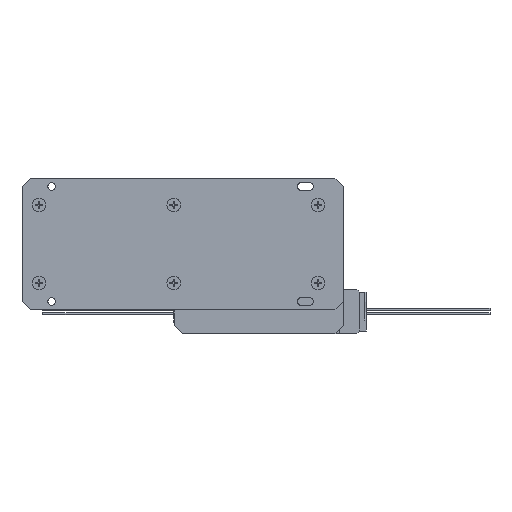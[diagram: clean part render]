
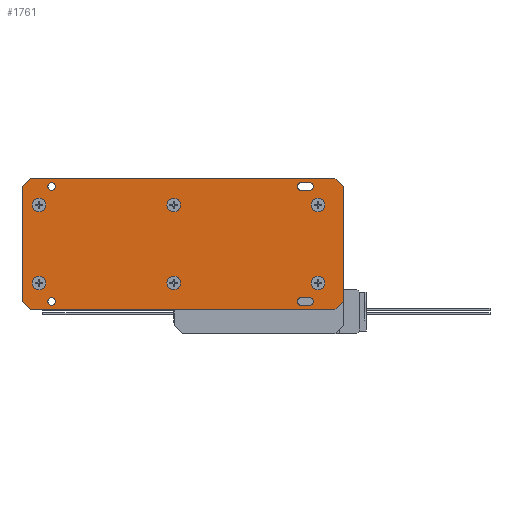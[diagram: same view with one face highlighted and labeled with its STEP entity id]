
A CAD part, front view. The second image highlights one B-rep face of the part: STEP entity #1761.
In plain terms, the highlighted planar face has unit normal (0, -1, 0).
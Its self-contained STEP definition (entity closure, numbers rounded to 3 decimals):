
#1761=ADVANCED_FACE('',(#3657,#3658,#3659,#3660,#3661,#3662,#3663,#3664,#3665,#3666,#3667),#3668,.F.);
#3657=FACE_OUTER_BOUND('',#7308,.T.);
#3658=FACE_BOUND('',#7309,.T.);
#3659=FACE_BOUND('',#7310,.T.);
#3660=FACE_BOUND('',#7311,.T.);
#3661=FACE_BOUND('',#7312,.T.);
#3662=FACE_BOUND('',#7313,.T.);
#3663=FACE_BOUND('',#7314,.T.);
#3664=FACE_BOUND('',#7315,.T.);
#3665=FACE_BOUND('',#7316,.T.);
#3666=FACE_BOUND('',#7317,.T.);
#3667=FACE_BOUND('',#7318,.T.);
#3668=PLANE('',#7319);
#7308=EDGE_LOOP('',(#12376,#12377,#12378,#12379,#12380,#12381,#12382,#12383));
#7309=EDGE_LOOP('',(#12384,#12385,#12386,#12387));
#7310=EDGE_LOOP('',(#12388,#12389,#12390,#12391));
#7311=EDGE_LOOP('',(#12392));
#7312=EDGE_LOOP('',(#12393));
#7313=EDGE_LOOP('',(#12394));
#7314=EDGE_LOOP('',(#12395));
#7315=EDGE_LOOP('',(#12396));
#7316=EDGE_LOOP('',(#12397));
#7317=EDGE_LOOP('',(#12398));
#7318=EDGE_LOOP('',(#12399));
#7319=AXIS2_PLACEMENT_3D('',#12400,#12401,#12402);
#12376=ORIENTED_EDGE('',*,*,#26491,.F.);
#12377=ORIENTED_EDGE('',*,*,#26328,.F.);
#12378=ORIENTED_EDGE('',*,*,#26501,.F.);
#12379=ORIENTED_EDGE('',*,*,#26243,.F.);
#12380=ORIENTED_EDGE('',*,*,#26499,.F.);
#12381=ORIENTED_EDGE('',*,*,#26496,.F.);
#12382=ORIENTED_EDGE('',*,*,#26271,.F.);
#12383=ORIENTED_EDGE('',*,*,#26494,.F.);
#12384=ORIENTED_EDGE('',*,*,#26503,.T.);
#12385=ORIENTED_EDGE('',*,*,#26518,.T.);
#12386=ORIENTED_EDGE('',*,*,#26510,.T.);
#12387=ORIENTED_EDGE('',*,*,#26507,.T.);
#12388=ORIENTED_EDGE('',*,*,#26339,.T.);
#12389=ORIENTED_EDGE('',*,*,#26265,.T.);
#12390=ORIENTED_EDGE('',*,*,#26516,.T.);
#12391=ORIENTED_EDGE('',*,*,#26513,.T.);
#12392=ORIENTED_EDGE('',*,*,#26520,.T.);
#12393=ORIENTED_EDGE('',*,*,#26275,.T.);
#12394=ORIENTED_EDGE('',*,*,#26260,.F.);
#12395=ORIENTED_EDGE('',*,*,#26522,.F.);
#12396=ORIENTED_EDGE('',*,*,#26523,.F.);
#12397=ORIENTED_EDGE('',*,*,#26524,.F.);
#12398=ORIENTED_EDGE('',*,*,#26525,.F.);
#12399=ORIENTED_EDGE('',*,*,#26526,.F.);
#12400=CARTESIAN_POINT('',(0.,0.0,0.0));
#12401=DIRECTION('',(-0.0,1.0,0.0));
#12402=DIRECTION('',(1.0,0.0,0.0));
#26243=EDGE_CURVE('',#30996,#30997,#30998,.T.);
#26260=EDGE_CURVE('',#31030,#31030,#31031,.T.);
#26265=EDGE_CURVE('',#31040,#31041,#31042,.T.);
#26271=EDGE_CURVE('',#31051,#31052,#31053,.T.);
#26275=EDGE_CURVE('',#31059,#31059,#31060,.T.);
#26328=EDGE_CURVE('',#31160,#31161,#31162,.T.);
#26339=EDGE_CURVE('',#31181,#31040,#31182,.T.);
#26491=EDGE_CURVE('',#31161,#31421,#31422,.T.);
#26494=EDGE_CURVE('',#31421,#31051,#31426,.T.);
#26496=EDGE_CURVE('',#31052,#31428,#31429,.T.);
#26499=EDGE_CURVE('',#31428,#30996,#31433,.T.);
#26501=EDGE_CURVE('',#30997,#31160,#31435,.T.);
#26503=EDGE_CURVE('',#31437,#31438,#31439,.T.);
#26507=EDGE_CURVE('',#31445,#31437,#31446,.T.);
#26510=EDGE_CURVE('',#31450,#31445,#31451,.T.);
#26513=EDGE_CURVE('',#31455,#31181,#31456,.T.);
#26516=EDGE_CURVE('',#31041,#31455,#31460,.T.);
#26518=EDGE_CURVE('',#31438,#31450,#31462,.T.);
#26520=EDGE_CURVE('',#31464,#31464,#31465,.T.);
#26522=EDGE_CURVE('',#31468,#31468,#31469,.T.);
#26523=EDGE_CURVE('',#31470,#31470,#31471,.T.);
#26524=EDGE_CURVE('',#31472,#31472,#31473,.T.);
#26525=EDGE_CURVE('',#31474,#31474,#31475,.T.);
#26526=EDGE_CURVE('',#31476,#31476,#31477,.T.);
#30996=VERTEX_POINT('',#38892);
#30997=VERTEX_POINT('',#38893);
#30998=LINE('',#38894,#38895);
#31030=VERTEX_POINT('',#38938);
#31031=CIRCLE('',#38939,4.0);
#31040=VERTEX_POINT('',#38952);
#31041=VERTEX_POINT('',#38953);
#31042=CIRCLE('',#38954,2.25);
#31051=VERTEX_POINT('',#38967);
#31052=VERTEX_POINT('',#38968);
#31053=LINE('',#38969,#38970);
#31059=VERTEX_POINT('',#38979);
#31060=CIRCLE('',#38980,2.25);
#31160=VERTEX_POINT('',#39124);
#31161=VERTEX_POINT('',#39125);
#31162=LINE('',#39126,#39127);
#31181=VERTEX_POINT('',#39154);
#31182=LINE('',#39155,#39156);
#31421=VERTEX_POINT('',#39522);
#31422=LINE('',#39523,#39524);
#31426=LINE('',#39530,#39531);
#31428=VERTEX_POINT('',#39534);
#31429=LINE('',#39535,#39536);
#31433=LINE('',#39542,#39543);
#31435=LINE('',#39546,#39547);
#31437=VERTEX_POINT('',#39550);
#31438=VERTEX_POINT('',#39551);
#31439=LINE('',#39552,#39553);
#31445=VERTEX_POINT('',#39562);
#31446=CIRCLE('',#39563,2.25);
#31450=VERTEX_POINT('',#39568);
#31451=LINE('',#39569,#39570);
#31455=VERTEX_POINT('',#39576);
#31456=CIRCLE('',#39577,2.25);
#31460=LINE('',#39582,#39583);
#31462=CIRCLE('',#39586,2.25);
#31464=VERTEX_POINT('',#39588);
#31465=CIRCLE('',#39589,2.25);
#31468=VERTEX_POINT('',#39592);
#31469=CIRCLE('',#39593,4.0);
#31470=VERTEX_POINT('',#39594);
#31471=CIRCLE('',#39595,4.0);
#31472=VERTEX_POINT('',#39596);
#31473=CIRCLE('',#39597,4.0);
#31474=VERTEX_POINT('',#39598);
#31475=CIRCLE('',#39599,4.0);
#31476=VERTEX_POINT('',#39600);
#31477=CIRCLE('',#39601,4.0);
#38892=CARTESIAN_POINT('',(157.8,0.0,34.0));
#38893=CARTESIAN_POINT('',(157.8,0.0,-34.0));
#38894=CARTESIAN_POINT('',(157.8,0.0,34.0));
#38895=VECTOR('',#51521,1.0);
#38938=CARTESIAN_POINT('',(-22.2,0.0,19.0));
#38939=AXIS2_PLACEMENT_3D('',#51548,#51549,#51550);
#38952=CARTESIAN_POINT('',(132.8,0.0,31.75));
#38953=CARTESIAN_POINT('',(132.8,0.0,36.25));
#38954=AXIS2_PLACEMENT_3D('',#51555,#51556,#51557);
#38967=CARTESIAN_POINT('',(-32.2,0.0,34.0));
#38968=CARTESIAN_POINT('',(-27.2,0.0,39.0));
#38969=CARTESIAN_POINT('',(-32.2,0.0,34.0));
#38970=VECTOR('',#51565,1.0);
#38979=CARTESIAN_POINT('',(-12.45,0.0,34.0));
#38980=AXIS2_PLACEMENT_3D('',#51569,#51570,#51571);
#39124=CARTESIAN_POINT('',(152.8,0.0,-39.0));
#39125=CARTESIAN_POINT('',(-27.2,0.0,-39.0));
#39126=CARTESIAN_POINT('',(152.8,0.0,-39.0));
#39127=VECTOR('',#51640,1.0);
#39154=CARTESIAN_POINT('',(137.8,0.0,31.75));
#39155=CARTESIAN_POINT('',(137.8,0.0,31.75));
#39156=VECTOR('',#51655,1.0);
#39522=CARTESIAN_POINT('',(-32.2,0.0,-34.0));
#39523=CARTESIAN_POINT('',(-27.2,0.0,-39.0));
#39524=VECTOR('',#51855,1.0);
#39530=CARTESIAN_POINT('',(-32.2,0.0,-34.0));
#39531=VECTOR('',#51858,1.0);
#39534=CARTESIAN_POINT('',(152.8,0.0,39.0));
#39535=CARTESIAN_POINT('',(-27.2,0.0,39.0));
#39536=VECTOR('',#51860,1.0);
#39542=CARTESIAN_POINT('',(152.8,0.0,39.0));
#39543=VECTOR('',#51863,1.0);
#39546=CARTESIAN_POINT('',(157.8,0.0,-34.0));
#39547=VECTOR('',#51865,1.0);
#39550=CARTESIAN_POINT('',(137.8,0.0,-36.25));
#39551=CARTESIAN_POINT('',(132.8,0.0,-36.25));
#39552=CARTESIAN_POINT('',(137.8,0.0,-36.25));
#39553=VECTOR('',#51867,1.0);
#39562=CARTESIAN_POINT('',(137.8,0.0,-31.75));
#39563=AXIS2_PLACEMENT_3D('',#51871,#51872,#51873);
#39568=CARTESIAN_POINT('',(132.8,0.0,-31.75));
#39569=CARTESIAN_POINT('',(132.8,0.0,-31.75));
#39570=VECTOR('',#51878,1.0);
#39576=CARTESIAN_POINT('',(137.8,0.0,36.25));
#39577=AXIS2_PLACEMENT_3D('',#51881,#51882,#51883);
#39582=CARTESIAN_POINT('',(132.8,0.0,36.25));
#39583=VECTOR('',#51888,1.0);
#39586=AXIS2_PLACEMENT_3D('',#51890,#51891,#51892);
#39588=CARTESIAN_POINT('',(-12.45,0.0,-34.0));
#39589=AXIS2_PLACEMENT_3D('',#51896,#51897,#51898);
#39592=CARTESIAN_POINT('',(57.5,0.0,19.0));
#39593=AXIS2_PLACEMENT_3D('',#51902,#51903,#51904);
#39594=CARTESIAN_POINT('',(-22.2,0.0,-27.0));
#39595=AXIS2_PLACEMENT_3D('',#51905,#51906,#51907);
#39596=CARTESIAN_POINT('',(57.5,0.0,-27.0));
#39597=AXIS2_PLACEMENT_3D('',#51908,#51909,#51910);
#39598=CARTESIAN_POINT('',(142.8,0.0,19.0));
#39599=AXIS2_PLACEMENT_3D('',#51911,#51912,#51913);
#39600=CARTESIAN_POINT('',(142.8,0.0,-27.0));
#39601=AXIS2_PLACEMENT_3D('',#51914,#51915,#51916);
#51521=DIRECTION('',(0.0,0.0,-1.0));
#51548=CARTESIAN_POINT('',(-22.2,0.0,23.0));
#51549=DIRECTION('',(0.0,-1.0,0.0));
#51550=DIRECTION('',(0.0,0.0,-1.0));
#51555=CARTESIAN_POINT('',(132.8,0.0,34.0));
#51556=DIRECTION('',(-0.0,1.0,0.0));
#51557=DIRECTION('',(1.0,0.0,0.0));
#51565=DIRECTION('',(0.707,0.0,0.707));
#51569=CARTESIAN_POINT('',(-14.7,0.0,34.0));
#51570=DIRECTION('',(-0.0,1.0,0.0));
#51571=DIRECTION('',(1.0,0.0,0.0));
#51640=DIRECTION('',(-1.0,0.0,0.0));
#51655=DIRECTION('',(-1.0,0.0,0.0));
#51855=DIRECTION('',(-0.707,0.0,0.707));
#51858=DIRECTION('',(0.0,0.0,1.0));
#51860=DIRECTION('',(1.0,0.0,0.0));
#51863=DIRECTION('',(0.707,0.0,-0.707));
#51865=DIRECTION('',(-0.707,0.0,-0.707));
#51867=DIRECTION('',(-1.0,0.0,0.0));
#51871=CARTESIAN_POINT('',(137.8,0.0,-34.0));
#51872=DIRECTION('',(-0.0,1.0,0.0));
#51873=DIRECTION('',(1.0,0.0,0.0));
#51878=DIRECTION('',(1.0,0.0,0.0));
#51881=CARTESIAN_POINT('',(137.8,0.0,34.0));
#51882=DIRECTION('',(-0.0,1.0,0.0));
#51883=DIRECTION('',(1.0,0.0,0.0));
#51888=DIRECTION('',(1.0,0.0,0.0));
#51890=CARTESIAN_POINT('',(132.8,0.0,-34.0));
#51891=DIRECTION('',(-0.0,1.0,0.0));
#51892=DIRECTION('',(1.0,0.0,0.0));
#51896=CARTESIAN_POINT('',(-14.7,0.0,-34.0));
#51897=DIRECTION('',(-0.0,1.0,0.0));
#51898=DIRECTION('',(1.0,0.0,0.0));
#51902=CARTESIAN_POINT('',(57.5,0.0,23.0));
#51903=DIRECTION('',(0.0,-1.0,0.0));
#51904=DIRECTION('',(0.0,0.0,-1.0));
#51905=CARTESIAN_POINT('',(-22.2,0.0,-23.0));
#51906=DIRECTION('',(0.0,-1.0,0.0));
#51907=DIRECTION('',(0.0,0.0,-1.0));
#51908=CARTESIAN_POINT('',(57.5,0.0,-23.0));
#51909=DIRECTION('',(0.0,-1.0,0.0));
#51910=DIRECTION('',(0.0,0.0,-1.0));
#51911=CARTESIAN_POINT('',(142.8,0.0,23.0));
#51912=DIRECTION('',(0.0,-1.0,0.0));
#51913=DIRECTION('',(0.0,0.0,-1.0));
#51914=CARTESIAN_POINT('',(142.8,0.0,-23.0));
#51915=DIRECTION('',(0.0,-1.0,0.0));
#51916=DIRECTION('',(0.0,0.0,-1.0));
